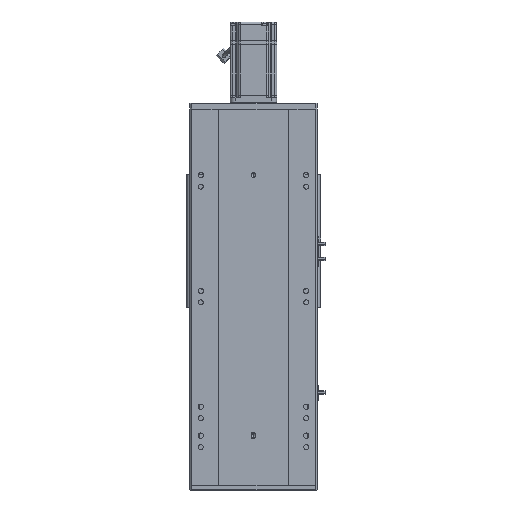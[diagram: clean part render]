
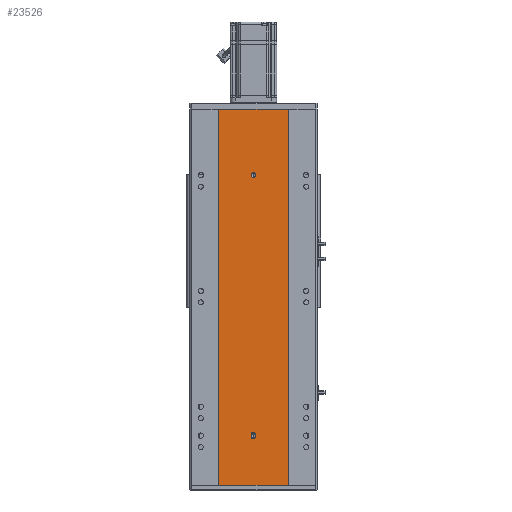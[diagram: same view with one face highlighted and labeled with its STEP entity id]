
A CAD part, front view. The second image highlights one B-rep face of the part: STEP entity #23526.
In plain terms, the highlighted planar face has unit normal (0, -1, 0).
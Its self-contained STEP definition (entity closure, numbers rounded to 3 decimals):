
#106 = CARTESIAN_POINT ( 'NONE',  ( -4., 0., 84.5 ) ) ;
#448 = CIRCLE ( 'NONE', #22577, 4. ) ;
#1310 = DIRECTION ( 'NONE',  ( 0., 0., -1. ) ) ;
#1738 = EDGE_CURVE ( 'NONE', #35450, #21616, #62003, .T. ) ;
#1808 = DIRECTION ( 'NONE',  ( 0., -1., 0. ) ) ;
#2482 = DIRECTION ( 'NONE',  ( 0., 0., 1. ) ) ;
#3953 = ORIENTED_EDGE ( 'NONE', *, *, #29128, .F. ) ;
#6120 = AXIS2_PLACEMENT_3D ( 'NONE', #64934, #28642, #2482 ) ;
#6255 = AXIS2_PLACEMENT_3D ( 'NONE', #20455, #62711, #67986 ) ;
#8569 = CIRCLE ( 'NONE', #6255, 4. ) ;
#8916 = CARTESIAN_POINT ( 'NONE',  ( -60., 0., 650. ) ) ;
#9448 = DIRECTION ( 'NONE',  ( 1., 0., 0. ) ) ;
#11695 = EDGE_CURVE ( 'NONE', #42723, #50546, #32391, .T. ) ;
#12086 = ORIENTED_EDGE ( 'NONE', *, *, #1738, .F. ) ;
#12532 = DIRECTION ( 'NONE',  ( 0., 0., -1. ) ) ;
#12690 = LINE ( 'NONE', #21075, #43946 ) ;
#12887 = CARTESIAN_POINT ( 'NONE',  ( 0., 0., 532. ) ) ;
#13000 = ORIENTED_EDGE ( 'NONE', *, *, #37638, .F. ) ;
#13876 = FACE_BOUND ( 'NONE', #62819, .T. ) ;
#14565 = ORIENTED_EDGE ( 'NONE', *, *, #33157, .F. ) ;
#15116 = VECTOR ( 'NONE', #34671, 1000. ) ;
#15907 = EDGE_CURVE ( 'NONE', #59927, #55877, #31697, .T. ) ;
#16326 = CARTESIAN_POINT ( 'NONE',  ( 4., 0., 87.5 ) ) ;
#16821 = CARTESIAN_POINT ( 'NONE',  ( -60., 0., 650. ) ) ;
#18182 = CARTESIAN_POINT ( 'NONE',  ( -4., 0., 87.5 ) ) ;
#20455 = CARTESIAN_POINT ( 'NONE',  ( 0., 0., 87.5 ) ) ;
#20982 = DIRECTION ( 'NONE',  ( 0., 0., -1. ) ) ;
#21075 = CARTESIAN_POINT ( 'NONE',  ( -4., 0., 84.5 ) ) ;
#21319 = CIRCLE ( 'NONE', #59616, 4. ) ;
#21616 = VERTEX_POINT ( 'NONE', #26098 ) ;
#22248 = DIRECTION ( 'NONE',  ( 0., -1., 0. ) ) ;
#22492 = LINE ( 'NONE', #63270, #28229 ) ;
#22493 = CARTESIAN_POINT ( 'NONE',  ( -60., 0., 0. ) ) ;
#22577 = AXIS2_PLACEMENT_3D ( 'NONE', #49062, #32964, #1310 ) ;
#22759 = AXIS2_PLACEMENT_3D ( 'NONE', #28436, #22248, #27747 ) ;
#23526 = ADVANCED_FACE ( 'NONE', ( #13876, #62350, #38543 ), #49112, .F. ) ;
#23838 = DIRECTION ( 'NONE',  ( 0., 0., -1. ) ) ;
#24297 = CARTESIAN_POINT ( 'NONE',  ( 0., 0., 84.5 ) ) ;
#24763 = CARTESIAN_POINT ( 'NONE',  ( 4., 0., 84.5 ) ) ;
#25506 = EDGE_LOOP ( 'NONE', ( #45703, #3953, #56890, #13000, #46162 ) ) ;
#25539 = CIRCLE ( 'NONE', #29924, 4. ) ;
#26098 = CARTESIAN_POINT ( 'NONE',  ( 0., 0., 540. ) ) ;
#26709 = VECTOR ( 'NONE', #9448, 1000. ) ;
#27686 = EDGE_LOOP ( 'NONE', ( #42071, #29737, #30034, #31308 ) ) ;
#27747 = DIRECTION ( 'NONE',  ( 0., 0., -1. ) ) ;
#28229 = VECTOR ( 'NONE', #20982, 1000. ) ;
#28436 = CARTESIAN_POINT ( 'NONE',  ( 0., 0., 536. ) ) ;
#28642 = DIRECTION ( 'NONE',  ( 0., 1., 0. ) ) ;
#29082 = LINE ( 'NONE', #24763, #15116 ) ;
#29128 = EDGE_CURVE ( 'NONE', #50610, #58192, #21319, .T. ) ;
#29737 = ORIENTED_EDGE ( 'NONE', *, *, #55000, .F. ) ;
#29778 = DIRECTION ( 'NONE',  ( 1., 0., 0. ) ) ;
#29924 = AXIS2_PLACEMENT_3D ( 'NONE', #24297, #39705, #60868 ) ;
#30034 = ORIENTED_EDGE ( 'NONE', *, *, #15907, .F. ) ;
#31308 = ORIENTED_EDGE ( 'NONE', *, *, #54578, .T. ) ;
#31697 = LINE ( 'NONE', #8916, #49811 ) ;
#31767 = CARTESIAN_POINT ( 'NONE',  ( 4., 0., 84.5 ) ) ;
#32391 = LINE ( 'NONE', #57429, #26709 ) ;
#32964 = DIRECTION ( 'NONE',  ( 0., -1., 0. ) ) ;
#33007 = CARTESIAN_POINT ( 'NONE',  ( 0., 0., 84.5 ) ) ;
#33157 = EDGE_CURVE ( 'NONE', #21616, #35450, #448, .T. ) ;
#34671 = DIRECTION ( 'NONE',  ( 0., 0., 1. ) ) ;
#35112 = CARTESIAN_POINT ( 'NONE',  ( 60., 0., 0. ) ) ;
#35450 = VERTEX_POINT ( 'NONE', #12887 ) ;
#35703 = VERTEX_POINT ( 'NONE', #16326 ) ;
#37022 = VERTEX_POINT ( 'NONE', #106 ) ;
#37638 = EDGE_CURVE ( 'NONE', #62334, #37022, #12690, .T. ) ;
#38543 = FACE_OUTER_BOUND ( 'NONE', #27686, .T. ) ;
#38967 = CARTESIAN_POINT ( 'NONE',  ( -60., 0., 650. ) ) ;
#39705 = DIRECTION ( 'NONE',  ( 0., -1., 0. ) ) ;
#40263 = EDGE_CURVE ( 'NONE', #37022, #50610, #25539, .T. ) ;
#40489 = CARTESIAN_POINT ( 'NONE',  ( 60., 0., 650. ) ) ;
#41739 = CARTESIAN_POINT ( 'NONE',  ( 0., 0., 80.5 ) ) ;
#42071 = ORIENTED_EDGE ( 'NONE', *, *, #11695, .T. ) ;
#42723 = VERTEX_POINT ( 'NONE', #22493 ) ;
#43061 = LINE ( 'NONE', #38967, #64432 ) ;
#43946 = VECTOR ( 'NONE', #58047, 1000. ) ;
#45703 = ORIENTED_EDGE ( 'NONE', *, *, #60473, .F. ) ;
#46162 = ORIENTED_EDGE ( 'NONE', *, *, #61060, .F. ) ;
#49062 = CARTESIAN_POINT ( 'NONE',  ( 0., 0., 536. ) ) ;
#49112 = PLANE ( 'NONE',  #6120 ) ;
#49811 = VECTOR ( 'NONE', #29778, 1000. ) ;
#50546 = VERTEX_POINT ( 'NONE', #35112 ) ;
#50610 = VERTEX_POINT ( 'NONE', #41739 ) ;
#54578 = EDGE_CURVE ( 'NONE', #59927, #42723, #43061, .T. ) ;
#55000 = EDGE_CURVE ( 'NONE', #55877, #50546, #22492, .T. ) ;
#55877 = VERTEX_POINT ( 'NONE', #40489 ) ;
#56890 = ORIENTED_EDGE ( 'NONE', *, *, #40263, .F. ) ;
#57429 = CARTESIAN_POINT ( 'NONE',  ( -60., 0., 0. ) ) ;
#58047 = DIRECTION ( 'NONE',  ( 0., 0., -1. ) ) ;
#58192 = VERTEX_POINT ( 'NONE', #31767 ) ;
#59616 = AXIS2_PLACEMENT_3D ( 'NONE', #33007, #1808, #23838 ) ;
#59927 = VERTEX_POINT ( 'NONE', #16821 ) ;
#60473 = EDGE_CURVE ( 'NONE', #58192, #35703, #29082, .T. ) ;
#60868 = DIRECTION ( 'NONE',  ( 0., 0., -1. ) ) ;
#61060 = EDGE_CURVE ( 'NONE', #35703, #62334, #8569, .T. ) ;
#62003 = CIRCLE ( 'NONE', #22759, 4. ) ;
#62334 = VERTEX_POINT ( 'NONE', #18182 ) ;
#62350 = FACE_BOUND ( 'NONE', #25506, .T. ) ;
#62711 = DIRECTION ( 'NONE',  ( 0., -1., 0. ) ) ;
#62819 = EDGE_LOOP ( 'NONE', ( #12086, #14565 ) ) ;
#63270 = CARTESIAN_POINT ( 'NONE',  ( 60., 0., 650. ) ) ;
#64432 = VECTOR ( 'NONE', #12532, 1000. ) ;
#64934 = CARTESIAN_POINT ( 'NONE',  ( -60., 0., 650. ) ) ;
#67986 = DIRECTION ( 'NONE',  ( 0., 0., -1. ) ) ;
